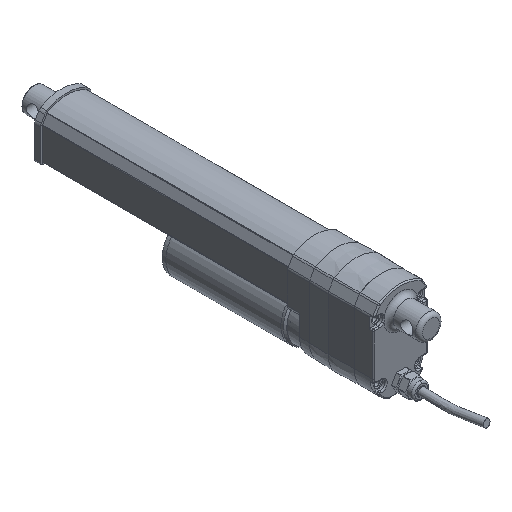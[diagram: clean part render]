
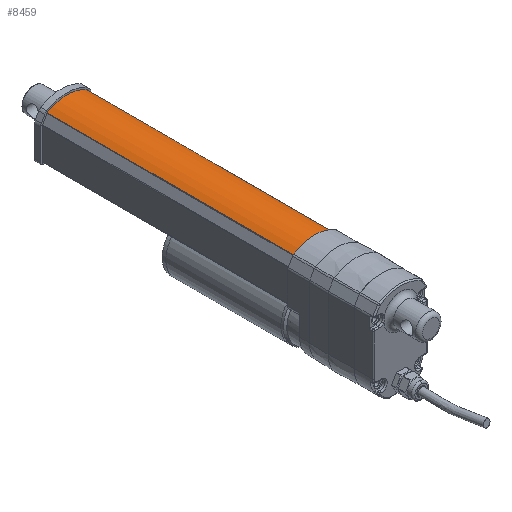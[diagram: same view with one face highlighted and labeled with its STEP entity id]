
A CAD part, isometric view. The second image highlights one B-rep face of the part: STEP entity #8459.
In plain terms, the highlighted cylindrical face has radius 30 mm (diameter 60 mm), a partial arc.
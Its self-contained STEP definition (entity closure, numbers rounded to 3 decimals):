
#1093 = VECTOR ( 'NONE', #8696, 1000. ) ;
#2342 = AXIS2_PLACEMENT_3D ( 'NONE', #9729, #7813, #11072 ) ;
#3080 = VERTEX_POINT ( 'NONE', #7632 ) ;
#3870 = CARTESIAN_POINT ( 'NONE',  ( -16.325, 8.5, 31.669 ) ) ;
#4109 = EDGE_CURVE ( 'NONE', #8342, #5258, #9000, .T. ) ;
#4219 = ORIENTED_EDGE ( 'NONE', *, *, #4109, .T. ) ;
#4368 = DIRECTION ( 'NONE',  ( -1., 0., 0. ) ) ;
#4471 = DIRECTION ( 'NONE',  ( 0., -1., 0. ) ) ;
#5243 = CARTESIAN_POINT ( 'NONE',  ( 16.325, 225.5, 31.669 ) ) ;
#5258 = VERTEX_POINT ( 'NONE', #3870 ) ;
#5273 = EDGE_CURVE ( 'NONE', #8342, #3080, #8950, .T. ) ;
#5301 = FACE_OUTER_BOUND ( 'NONE', #7865, .T. ) ;
#5348 = ORIENTED_EDGE ( 'NONE', *, *, #9954, .T. ) ;
#5567 = AXIS2_PLACEMENT_3D ( 'NONE', #10215, #8360, #9373 ) ;
#5604 = CARTESIAN_POINT ( 'NONE',  ( -16.325, 225.5, 31.669 ) ) ;
#7312 = DIRECTION ( 'NONE',  ( 0., -1., 0. ) ) ;
#7546 = CARTESIAN_POINT ( 'NONE',  ( -16.325, 225.5, 31.669 ) ) ;
#7632 = CARTESIAN_POINT ( 'NONE',  ( 16.325, 225.5, 31.669 ) ) ;
#7685 = CIRCLE ( 'NONE', #5567, 30. ) ;
#7813 = DIRECTION ( 'NONE',  ( 0., 1., 0. ) ) ;
#7865 = EDGE_LOOP ( 'NONE', ( #10707, #4219, #5348, #9951 ) ) ;
#8342 = VERTEX_POINT ( 'NONE', #7546 ) ;
#8360 = DIRECTION ( 'NONE',  ( 0., 1., 0. ) ) ;
#8459 = ADVANCED_FACE ( 'NONE', ( #5301 ), #8607, .T. ) ;
#8607 = CYLINDRICAL_SURFACE ( 'NONE', #8947, 30. ) ;
#8696 = DIRECTION ( 'NONE',  ( 0., 1., 0. ) ) ;
#8898 = CARTESIAN_POINT ( 'NONE',  ( 16.325, 8.5, 31.669 ) ) ;
#8947 = AXIS2_PLACEMENT_3D ( 'NONE', #10385, #4471, #4368 ) ;
#8950 = CIRCLE ( 'NONE', #2342, 30. ) ;
#9000 = LINE ( 'NONE', #5604, #9810 ) ;
#9373 = DIRECTION ( 'NONE',  ( 1., 0., 0. ) ) ;
#9634 = LINE ( 'NONE', #5243, #1093 ) ;
#9729 = CARTESIAN_POINT ( 'NONE',  ( 0., 225.5, 6.5 ) ) ;
#9810 = VECTOR ( 'NONE', #7312, 1000. ) ;
#9951 = ORIENTED_EDGE ( 'NONE', *, *, #10058, .T. ) ;
#9954 = EDGE_CURVE ( 'NONE', #5258, #10438, #7685, .T. ) ;
#10058 = EDGE_CURVE ( 'NONE', #10438, #3080, #9634, .T. ) ;
#10215 = CARTESIAN_POINT ( 'NONE',  ( 0., 8.5, 6.5 ) ) ;
#10385 = CARTESIAN_POINT ( 'NONE',  ( 0., 225.5, 6.5 ) ) ;
#10438 = VERTEX_POINT ( 'NONE', #8898 ) ;
#10707 = ORIENTED_EDGE ( 'NONE', *, *, #5273, .F. ) ;
#11072 = DIRECTION ( 'NONE',  ( 1., 0., 0. ) ) ;
